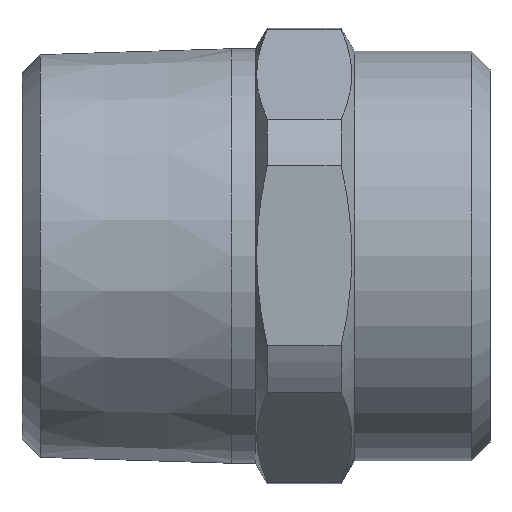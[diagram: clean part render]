
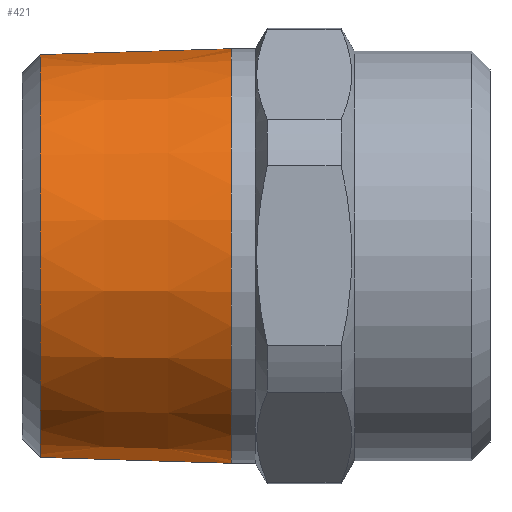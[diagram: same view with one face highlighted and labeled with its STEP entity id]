
A CAD part, top view. The second image highlights one B-rep face of the part: STEP entity #421.
In plain terms, the highlighted conical face has half-angle 1.78 degrees and reference radius 16.564 mm.
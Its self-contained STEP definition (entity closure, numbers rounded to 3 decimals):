
#49=CARTESIAN_POINT('',(17.0,16.828,0.0));
#50=VERTEX_POINT('',#49);
#59=CARTESIAN_POINT('',(17.0,-16.828,0.));
#60=VERTEX_POINT('',#59);
#61=CARTESIAN_POINT('',(17.0,0.0,0.0));
#62=DIRECTION('',(1.0,0.0,0.0));
#63=DIRECTION('',(0.0,1.0,0.0));
#64=AXIS2_PLACEMENT_3D('',#61,#62,#63);
#65=CIRCLE('',#64,16.828);
#66=EDGE_CURVE('',#50,#60,#65,.T.);
#390=CARTESIAN_POINT('',(8.5,0.0,0.0));
#391=DIRECTION('',(1.0,0.0,0.0));
#392=DIRECTION('',(0.0,1.0,0.0));
#393=AXIS2_PLACEMENT_3D('',#390,#391,#392);
#394=CONICAL_SURFACE('',#393,16.564,1.78);
#395=CARTESIAN_POINT('',(1.499,16.347,0.));
#396=VERTEX_POINT('',#395);
#397=CARTESIAN_POINT('',(1.499,16.347,0.));
#398=DIRECTION('',(1.,0.031,0.));
#399=VECTOR('',#398,15.508);
#400=LINE('',#397,#399);
#401=EDGE_CURVE('',#396,#50,#400,.T.);
#402=ORIENTED_EDGE('',*,*,#401,.F.);
#403=CARTESIAN_POINT('',(1.499,-16.347,0.));
#404=VERTEX_POINT('',#403);
#405=CARTESIAN_POINT('',(1.499,0.0,0.));
#406=DIRECTION('',(-1.0,0.0,0.0));
#407=DIRECTION('',(0.0,-1.0,0.0));
#408=AXIS2_PLACEMENT_3D('',#405,#406,#407);
#409=CIRCLE('',#408,16.347);
#410=EDGE_CURVE('',#404,#396,#409,.T.);
#411=ORIENTED_EDGE('',*,*,#410,.F.);
#412=CARTESIAN_POINT('',(17.0,-16.828,0.));
#413=DIRECTION('',(-1.,0.031,0.));
#414=VECTOR('',#413,15.508);
#415=LINE('',#412,#414);
#416=EDGE_CURVE('',#60,#404,#415,.T.);
#417=ORIENTED_EDGE('',*,*,#416,.F.);
#418=ORIENTED_EDGE('',*,*,#66,.F.);
#419=EDGE_LOOP('',(#402,#411,#417,#418));
#420=FACE_OUTER_BOUND('',#419,.T.);
#421=ADVANCED_FACE('',(#420),#394,.T.);
